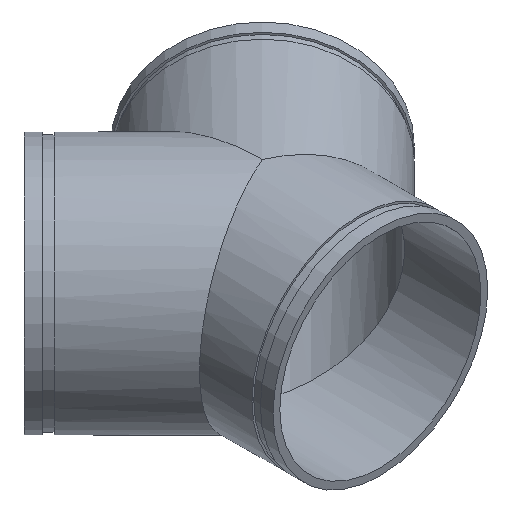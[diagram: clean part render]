
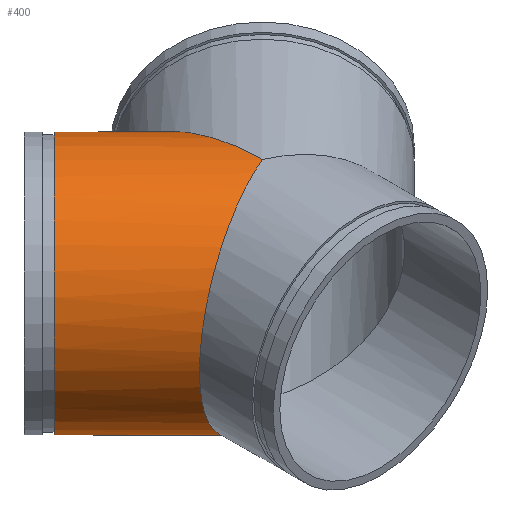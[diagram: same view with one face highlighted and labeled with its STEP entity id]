
A CAD part, isometric view. The second image highlights one B-rep face of the part: STEP entity #400.
In plain terms, the highlighted cylindrical face has radius 161.925 mm (diameter 323.85 mm), a full revolution.
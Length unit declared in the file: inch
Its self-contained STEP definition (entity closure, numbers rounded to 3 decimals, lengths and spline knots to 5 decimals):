
#76=FACE_OUTER_BOUND('',#103,.T.);
#103=EDGE_LOOP('',(#314,#315,#316,#317,#318,#319,#320,#321));
#118=ELLIPSE('',#470,9.01561,6.375);
#119=ELLIPSE('',#471,6.90025,6.375);
#120=ELLIPSE('',#472,6.90025,6.375);
#121=ELLIPSE('',#473,9.01561,6.375);
#131=LINE('',#735,#143);
#143=VECTOR('',#595,6.375);
#156=CIRCLE('',#446,6.375);
#157=CIRCLE('',#447,6.375);
#186=VERTEX_POINT('',#686);
#187=VERTEX_POINT('',#687);
#202=VERTEX_POINT('',#730);
#203=VERTEX_POINT('',#731);
#204=VERTEX_POINT('',#733);
#205=VERTEX_POINT('',#736);
#223=EDGE_CURVE('',#186,#187,#156,.T.);
#224=EDGE_CURVE('',#187,#186,#157,.T.);
#243=EDGE_CURVE('',#202,#203,#118,.T.);
#244=EDGE_CURVE('',#204,#202,#119,.T.);
#245=EDGE_CURVE('',#204,#187,#131,.T.);
#246=EDGE_CURVE('',#205,#204,#120,.T.);
#247=EDGE_CURVE('',#203,#205,#121,.T.);
#314=ORIENTED_EDGE('',*,*,#243,.F.);
#315=ORIENTED_EDGE('',*,*,#244,.F.);
#316=ORIENTED_EDGE('',*,*,#245,.T.);
#317=ORIENTED_EDGE('',*,*,#224,.T.);
#318=ORIENTED_EDGE('',*,*,#223,.T.);
#319=ORIENTED_EDGE('',*,*,#245,.F.);
#320=ORIENTED_EDGE('',*,*,#246,.F.);
#321=ORIENTED_EDGE('',*,*,#247,.F.);
#359=CYLINDRICAL_SURFACE('',#469,6.375);
#400=ADVANCED_FACE('',(#76),#359,.T.);
#446=AXIS2_PLACEMENT_3D('',#688,#539,#540);
#447=AXIS2_PLACEMENT_3D('',#689,#541,#542);
#469=AXIS2_PLACEMENT_3D('',#729,#589,#590);
#470=AXIS2_PLACEMENT_3D('',#732,#591,#592);
#471=AXIS2_PLACEMENT_3D('',#734,#593,#594);
#472=AXIS2_PLACEMENT_3D('',#737,#596,#597);
#473=AXIS2_PLACEMENT_3D('',#738,#598,#599);
#539=DIRECTION('center_axis',(0.707,-0.707,0.));
#540=DIRECTION('ref_axis',(0.707,0.707,0.));
#541=DIRECTION('center_axis',(0.707,-0.707,0.));
#542=DIRECTION('ref_axis',(0.707,0.707,0.));
#589=DIRECTION('center_axis',(0.707,-0.707,0.));
#590=DIRECTION('ref_axis',(0.707,0.707,0.));
#591=DIRECTION('center_axis',(1.,0.,0.));
#592=DIRECTION('ref_axis',(0.,1.,0.));
#593=DIRECTION('center_axis',(0.383,-0.924,0.));
#594=DIRECTION('ref_axis',(0.924,0.383,0.));
#595=DIRECTION('',(-0.707,0.707,0.));
#596=DIRECTION('center_axis',(0.383,-0.924,0.));
#597=DIRECTION('ref_axis',(0.924,0.383,0.));
#598=DIRECTION('center_axis',(1.,0.,0.));
#599=DIRECTION('ref_axis',(0.,1.,0.));
#686=CARTESIAN_POINT('',(-1.67938,10.69499,0.));
#687=CARTESIAN_POINT('',(-10.69499,1.67938,0.));
#688=CARTESIAN_POINT('Origin',(-6.18718,6.18718,0.));
#689=CARTESIAN_POINT('Origin',(-6.18718,6.18718,0.));
#729=CARTESIAN_POINT('Origin',(-7.07107,7.07107,0.));
#730=CARTESIAN_POINT('',(0.,0.,-6.375));
#731=CARTESIAN_POINT('',(0.,9.01561,0.));
#732=CARTESIAN_POINT('Origin',(0.,0.,0.));
#733=CARTESIAN_POINT('',(-6.375,-2.64061,0.));
#734=CARTESIAN_POINT('Origin',(0.,0.,0.));
#735=CARTESIAN_POINT('',(-11.57887,2.56326,0.));
#736=CARTESIAN_POINT('',(0.,0.,6.375));
#737=CARTESIAN_POINT('Origin',(0.,0.,0.));
#738=CARTESIAN_POINT('Origin',(0.,0.,0.));
